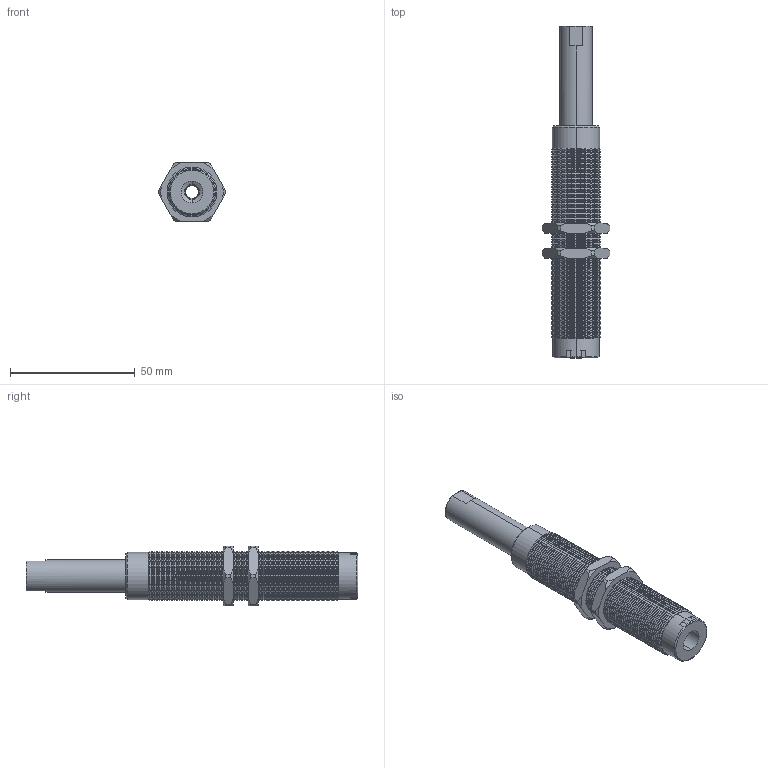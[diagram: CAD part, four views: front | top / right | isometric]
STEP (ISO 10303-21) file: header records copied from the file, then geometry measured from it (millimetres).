
FILE_DESCRIPTION (( 'STEP AP214' ), '1' );
FILE_NAME ('VFCT2030-G18.STEP', '2019-12-19T06:01:06', ( '微软用户' ), ( '微软中国' ), 'SwSTEP 2.0', 'SolidWorks 2016', '' );
FILE_SCHEMA (( 'AUTOMOTIVE_DESIGN' ));
Length unit declared in the file: millimetre
Products named in the file (1): VFCT2030-G18
Bounding box: 27 x 133 x 24 mm (x, y, z)
Volume: 22876 mm3; surface area: 26054.6 mm2
Topology: 6 solids, 6 shells, 811 faces, 1704 edges, 903 vertices
Faces by surface type: cone 369, cylinder 356, plane 60, torus 18, bspline 8
Entity records: 30317 total; most frequent: DIRECTION 4043, CARTESIAN_POINT 3874, ORIENTED_EDGE 3392, EDGE_CURVE 1696, AXIS2_PLACEMENT_3D 1626, VERTEX_POINT 903, EDGE_LOOP 829, CIRCLE 822
